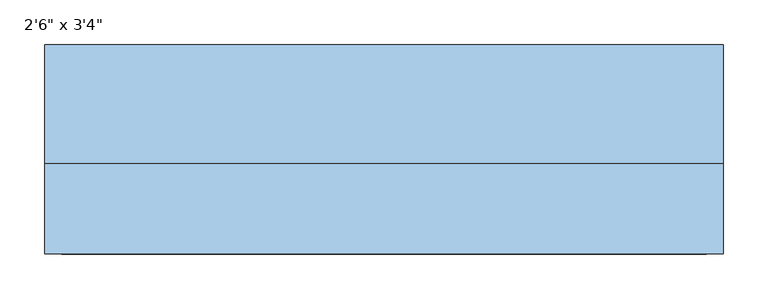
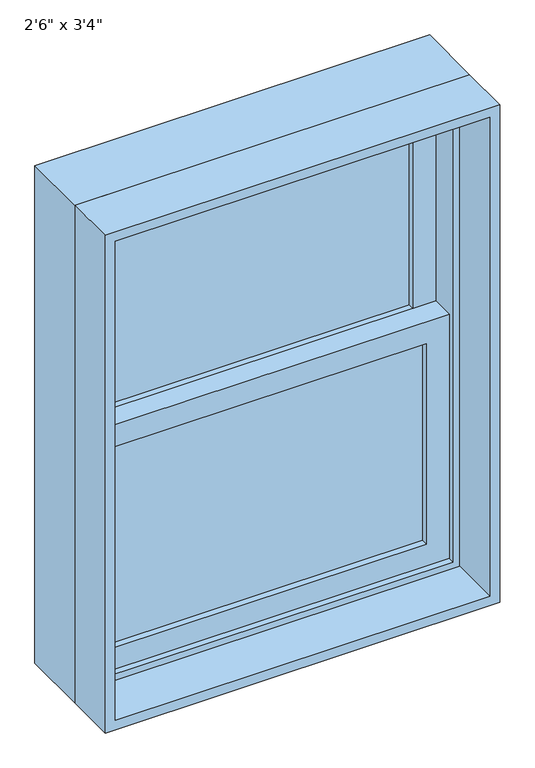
"""IFC4 building model written with IfcOpenShell, lengths in millimetres: window geometry."""

from ifc_helpers import new_model, si_unit, frame, origin, place, context, project, spatial, polyline, outline, extrude, source, transform, mapped, element, save


def window_862b37cb(model_context):
    return source(origin(), model_context, "Body", "SweptSolid", [
        extrude(outline(polyline([(304.8, 38.1), (304.8, 31.75), (-304.8, 31.75), (-304.8, 38.1), (304.8, 38.1)])), frame((0.0, 0.0, 990.6), z_axis=(0.0, 0.0, 1.0), x_axis=(1.0, 0.0, 0.0)), (0.0, 0.0, 1.0), 409.575),
        extrude(outline(polyline([(-304.8, 25.4), (304.8, 25.4), (304.8, 19.05), (-304.8, 19.05), (-304.8, 25.4)])), frame((0.0, 0.0, 990.6), z_axis=(0.0, 0.0, 1.0), x_axis=(1.0, 0.0, 0.0)), (0.0, 0.0, 1.0), 409.575),
        extrude(outline(polyline([(304.8, 82.55), (304.8, 76.2), (-304.8, 76.2), (-304.8, 82.55), (304.8, 82.55)])), frame((0.0, 0.0, 1444.625), z_axis=(0.0, 0.0, 1.0), x_axis=(1.0, 0.0, 0.0)), (0.0, 0.0, 1.0), 409.575),
        extrude(outline(polyline([(-304.8, 69.85), (304.8, 69.85), (304.8, 63.5), (-304.8, 63.5), (-304.8, 69.85)])), frame((0.0, 0.0, 1444.625), z_axis=(0.0, 0.0, 1.0), x_axis=(1.0, 0.0, 0.0)), (0.0, 0.0, 1.0), 409.575),
        extrude(outline(polyline([(1444.625, -349.25), (946.15, -349.25), (946.15, 349.25), (1444.625, 349.25), (1444.625, -349.25)]), holes=[polyline([(1400.175, 304.8), (990.6, 304.8), (990.6, -304.8), (1400.175, -304.8), (1400.175, 304.8)])]), frame((0.0, 6.35, 0.0), z_axis=(0.0, 1.0, 0.0), x_axis=(0.0, 0.0, 1.0)), (0.0, 0.0, 1.0), 44.45),
        extrude(outline(polyline([(1898.65, -349.25), (1400.175, -349.25), (1400.175, 349.25), (1898.65, 349.25), (1898.65, -349.25)]), holes=[polyline([(1854.2, 304.8), (1444.625, 304.8), (1444.625, -304.8), (1854.2, -304.8), (1854.2, 304.8)])]), frame((0.0, 50.8, 0.0), z_axis=(0.0, 1.0, 0.0), x_axis=(0.0, 0.0, 1.0)), (0.0, 0.0, 1.0), 44.45),
        extrude(outline(polyline([(1930.4, -381.0), (914.4, -381.0), (914.4, 381.0), (1930.4, 381.0), (1930.4, -381.0)]), holes=[polyline([(1898.65, 349.25), (946.15, 349.25), (946.15, -349.25), (1898.65, -349.25), (1898.65, 349.25)])]), frame((0.0, -6.35, 0.0), z_axis=(0.0, 1.0, 0.0), x_axis=(0.0, 0.0, 1.0)), (0.0, 0.0, 1.0), 133.35),
        extrude(outline(polyline([(1930.4, 381.0), (1930.4, -381.0), (914.4, -381.0), (914.4, 381.0), (1930.4, 381.0)]), holes=[polyline([(1911.35, 361.95), (933.45, 361.95), (933.45, -361.95), (1911.35, -361.95), (1911.35, 361.95)])]), frame((0.0, -107.95, 0.0), z_axis=(0.0, 1.0, 0.0), x_axis=(0.0, 0.0, 1.0)), (0.0, 0.0, 1.0), 101.6),
    ])


if __name__ == "__main__":
    model = new_model("IFC4")
    model_context = context("Model", 3, world=origin())
    ifc_project = project(units=[si_unit("LENGTHUNIT", "METRE", prefix="MILLI")], contexts=[model_context])
    site = spatial("IfcSite", under=ifc_project)
    building = spatial("IfcBuilding", under=site)
    placement = place(None, origin())
    window_shape = window_862b37cb(model_context)
    element("IfcWindow", 1, ObjectType="Planitar-Double-Hung-Single : 2'6\" x 3'4\"", at=placement, inside=building, context=model_context, shape_type="MappedRepresentation", body=[
        mapped(window_shape, transform((0.0, 0.0, 0.0), x_axis=(1.0, 0.0, 0.0), y_axis=(0.0, 1.0, 0.0), z_axis=(0.0, 0.0, 1.0))),
    ])
    save(model, "model.ifc")
